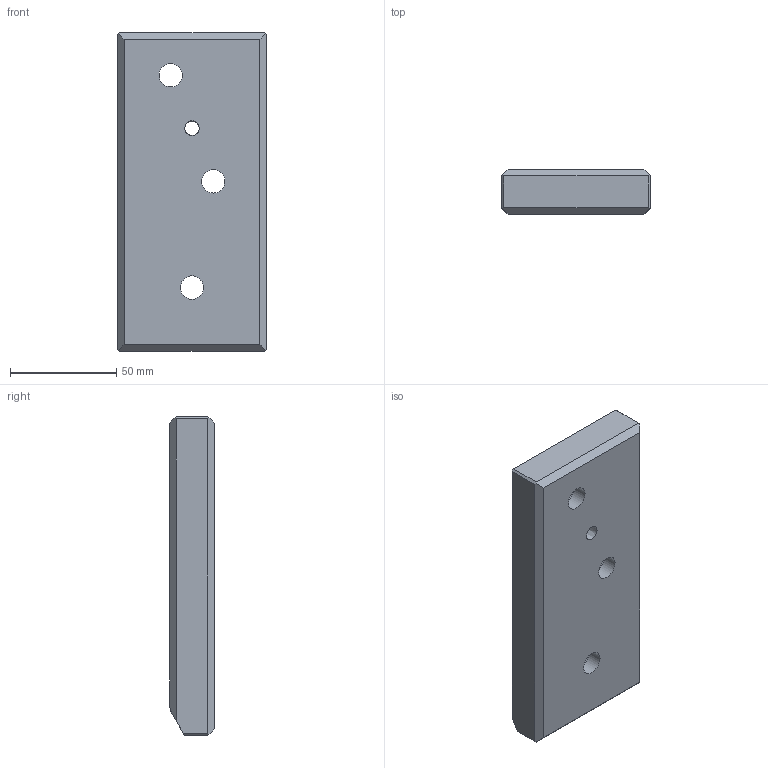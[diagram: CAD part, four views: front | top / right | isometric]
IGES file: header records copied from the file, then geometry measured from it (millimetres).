
Global section: file name: PG15.070150.ipt; native system: Autodesk Inventor 2021; preprocessor: unknown; author: SM; date: 20211219.182600; units: millimetre
Bounding box: 70 x 21 x 150 mm (x, y, z)
Volume: 197272.7 mm3; surface area: 31507.1 mm2
Topology: 1 solids, 1 shells, 48 faces, 141 edges, 95 vertices
Faces by surface type: plane 33, revolution 14, cylinder 1
